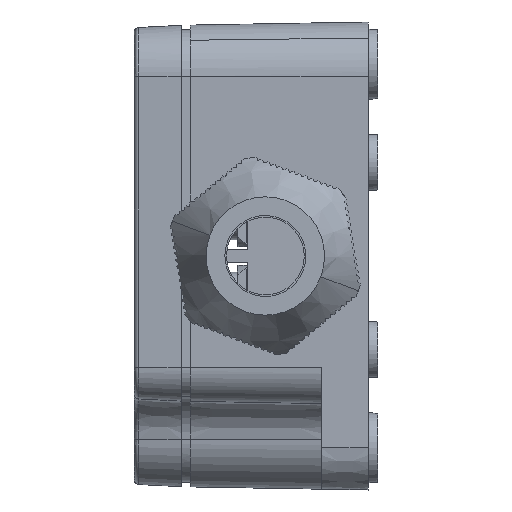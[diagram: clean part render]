
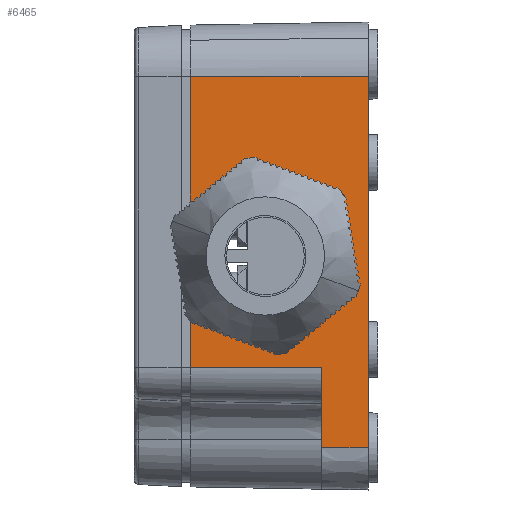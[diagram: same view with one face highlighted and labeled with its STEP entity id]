
A CAD part, left-side view. The second image highlights one B-rep face of the part: STEP entity #6465.
In plain terms, the highlighted planar face has unit normal (-1, 0.018, 0).
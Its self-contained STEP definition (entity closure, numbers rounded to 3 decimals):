
#144 = CARTESIAN_POINT ( 'NONE',  ( -39.571, 24.55, -6.775 ) ) ;
#214 = EDGE_CURVE ( 'NONE', #31306, #2173, #21110, .T. ) ;
#253 = CARTESIAN_POINT ( 'NONE',  ( -39.808, 11., 6.775 ) ) ;
#306 = CARTESIAN_POINT ( 'NONE',  ( -39.808, 11., -6.775 ) ) ;
#1882 = CARTESIAN_POINT ( 'NONE',  ( -40., 0., 19.152 ) ) ;
#2116 = CARTESIAN_POINT ( 'NONE',  ( -39.913, 5., -20.5 ) ) ;
#2173 = VERTEX_POINT ( 'NONE', #31892 ) ;
#2711 = VERTEX_POINT ( 'NONE', #1882 ) ;
#3058 = DIRECTION ( 'NONE',  ( -0.017, -1., 0. ) ) ;
#3345 = CARTESIAN_POINT ( 'NONE',  ( -40.045, -2.55, 6.775 ) ) ;
#3817 = CARTESIAN_POINT ( 'NONE',  ( -39.808, 11., -6.775 ) ) ;
#3955 = VECTOR ( 'NONE', #11680, 1000. ) ;
#6465 = ADVANCED_FACE ( 'NONE', ( #30280, #28670 ), #36023, .T. ) ;
#6566 = EDGE_CURVE ( 'NONE', #6917, #33722, #22123, .T. ) ;
#6917 = VERTEX_POINT ( 'NONE', #17203 ) ;
#7022 = EDGE_CURVE ( 'NONE', #2711, #31306, #11258, .T. ) ;
#7276 = VECTOR ( 'NONE', #31712, 1000. ) ;
#7647 = AXIS2_PLACEMENT_3D ( 'NONE', #15858, #9470, #39421 ) ;
#9059 = VERTEX_POINT ( 'NONE', #2116 ) ;
#9069 = VERTEX_POINT ( 'NONE', #35744 ) ;
#9470 = DIRECTION ( 'NONE',  ( -1., 0.017, 0. ) ) ;
#9783 = EDGE_CURVE ( 'NONE', #33722, #6917, #22676, .T. ) ;
#11196 = EDGE_LOOP ( 'NONE', ( #22088, #36007, #32719, #14805, #28533, #36096 ) ) ;
#11258 = LINE ( 'NONE', #38123, #32880 ) ;
#11680 = DIRECTION ( 'NONE',  ( 0., 0., -1. ) ) ;
#12972 = EDGE_CURVE ( 'NONE', #2173, #9069, #43173, .T. ) ;
#14158 = CARTESIAN_POINT ( 'NONE',  ( -39.571, 24.55, 6.775 ) ) ;
#14387 = DIRECTION ( 'NONE',  ( 0.017, 1., 0. ) ) ;
#14501 = CARTESIAN_POINT ( 'NONE',  ( -39.668, 19., 20.5 ) ) ;
#14805 = ORIENTED_EDGE ( 'NONE', *, *, #28472, .T. ) ;
#15858 = CARTESIAN_POINT ( 'NONE',  ( -39.651, 20., 20.5 ) ) ;
#16056 = DIRECTION ( 'NONE',  ( 0., 0., 1. ) ) ;
#17098 = CARTESIAN_POINT ( 'NONE',  ( -40.045, -2.55, -6.775 ) ) ;
#17203 = CARTESIAN_POINT ( 'NONE',  ( -39.808, 11., 6.775 ) ) ;
#19819 = LINE ( 'NONE', #31868, #3955 ) ;
#21110 = LINE ( 'NONE', #14501, #25333 ) ;
#22088 = ORIENTED_EDGE ( 'NONE', *, *, #7022, .T. ) ;
#22123 =( BOUNDED_CURVE ( )  B_SPLINE_CURVE ( 3, ( #253, #3345, #17098, #37556 ),
 .UNSPECIFIED., .F., .F. ) 
 B_SPLINE_CURVE_WITH_KNOTS ( ( 4, 4 ),
 ( 1.571, 4.712 ),
 .UNSPECIFIED. ) 
 CURVE ( )  GEOMETRIC_REPRESENTATION_ITEM ( )  RATIONAL_B_SPLINE_CURVE ( ( 1., 0.333, 0.333, 1. ) ) 
 REPRESENTATION_ITEM ( '' )  );
#22386 = CARTESIAN_POINT ( 'NONE',  ( -40., 0., -20.5 ) ) ;
#22676 =( BOUNDED_CURVE ( )  B_SPLINE_CURVE ( 3, ( #3817, #144, #14158, #23764 ),
 .UNSPECIFIED., .F., .F. ) 
 B_SPLINE_CURVE_WITH_KNOTS ( ( 4, 4 ),
 ( 4.712, 7.854 ),
 .UNSPECIFIED. ) 
 CURVE ( )  GEOMETRIC_REPRESENTATION_ITEM ( )  RATIONAL_B_SPLINE_CURVE ( ( 1., 0.333, 0.333, 1. ) ) 
 REPRESENTATION_ITEM ( '' )  );
#23764 = CARTESIAN_POINT ( 'NONE',  ( -39.808, 11., 6.775 ) ) ;
#25333 = VECTOR ( 'NONE', #38092, 1000. ) ;
#28472 = EDGE_CURVE ( 'NONE', #9069, #9059, #19819, .T. ) ;
#28533 = ORIENTED_EDGE ( 'NONE', *, *, #31354, .T. ) ;
#28670 = FACE_OUTER_BOUND ( 'NONE', #11196, .T. ) ;
#30280 = FACE_BOUND ( 'NONE', #30540, .T. ) ;
#30400 = ORIENTED_EDGE ( 'NONE', *, *, #9783, .T. ) ;
#30540 = EDGE_LOOP ( 'NONE', ( #30400, #41383 ) ) ;
#30823 = VECTOR ( 'NONE', #3058, 1000. ) ;
#31306 = VERTEX_POINT ( 'NONE', #36682 ) ;
#31354 = EDGE_CURVE ( 'NONE', #9059, #39673, #41909, .T. ) ;
#31712 = DIRECTION ( 'NONE',  ( -0.017, -1., 0. ) ) ;
#31868 = CARTESIAN_POINT ( 'NONE',  ( -39.913, 5., 20.5 ) ) ;
#31892 = CARTESIAN_POINT ( 'NONE',  ( -39.668, 19., -11.9 ) ) ;
#32532 = CARTESIAN_POINT ( 'NONE',  ( -40., 0., 20.5 ) ) ;
#32719 = ORIENTED_EDGE ( 'NONE', *, *, #12972, .T. ) ;
#32880 = VECTOR ( 'NONE', #14387, 1000. ) ;
#33671 = VECTOR ( 'NONE', #16056, 1000. ) ;
#33722 = VERTEX_POINT ( 'NONE', #306 ) ;
#34171 = LINE ( 'NONE', #32532, #33671 ) ;
#35744 = CARTESIAN_POINT ( 'NONE',  ( -39.913, 5., -11.9 ) ) ;
#36007 = ORIENTED_EDGE ( 'NONE', *, *, #214, .T. ) ;
#36023 = PLANE ( 'NONE',  #7647 ) ;
#36096 = ORIENTED_EDGE ( 'NONE', *, *, #39581, .T. ) ;
#36682 = CARTESIAN_POINT ( 'NONE',  ( -39.668, 19., 19.152 ) ) ;
#37556 = CARTESIAN_POINT ( 'NONE',  ( -39.808, 11., -6.775 ) ) ;
#38092 = DIRECTION ( 'NONE',  ( 0., 0., -1. ) ) ;
#38123 = CARTESIAN_POINT ( 'NONE',  ( -39.651, 20., 19.152 ) ) ;
#39421 = DIRECTION ( 'NONE',  ( -0.017, -1., 0. ) ) ;
#39581 = EDGE_CURVE ( 'NONE', #39673, #2711, #34171, .T. ) ;
#39673 = VERTEX_POINT ( 'NONE', #22386 ) ;
#40238 = CARTESIAN_POINT ( 'NONE',  ( -39.651, 20., -20.5 ) ) ;
#41383 = ORIENTED_EDGE ( 'NONE', *, *, #6566, .T. ) ;
#41909 = LINE ( 'NONE', #40238, #30823 ) ;
#42175 = CARTESIAN_POINT ( 'NONE',  ( -39.651, 20., -11.9 ) ) ;
#43173 = LINE ( 'NONE', #42175, #7276 ) ;
